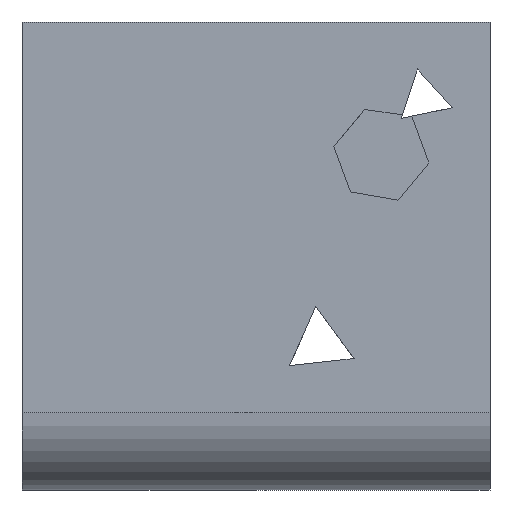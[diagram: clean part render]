
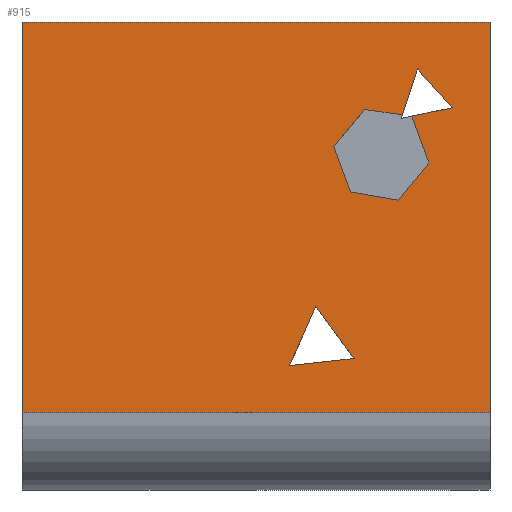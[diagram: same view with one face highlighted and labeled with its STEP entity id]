
A CAD part, left-side view. The second image highlights one B-rep face of the part: STEP entity #915.
In plain terms, the highlighted planar face has unit normal (-1, 0, 0).
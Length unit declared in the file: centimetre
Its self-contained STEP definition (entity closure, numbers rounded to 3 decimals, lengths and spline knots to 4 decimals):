
#18 = DIRECTION ( 'NONE',  ( 0., 0.99, 0.141 ) ) ;
#22 = LINE ( 'NONE', #679, #1436 ) ;
#28 = EDGE_CURVE ( 'NONE', #231, #514, #828, .T. ) ;
#37 = VECTOR ( 'NONE', #367, 100. ) ;
#39 = VECTOR ( 'NONE', #649, 100. ) ;
#40 = VECTOR ( 'NONE', #1107, 100. ) ;
#47 = CARTESIAN_POINT ( 'NONE',  ( 0., 298.3381, 637.0172 ) ) ;
#49 = CARTESIAN_POINT ( 'NONE',  ( 0., 155.1076, 899.6366 ) ) ;
#53 = CARTESIAN_POINT ( 'NONE',  ( 0., 130.7216, 698.7147 ) ) ;
#88 = CARTESIAN_POINT ( 'NONE',  ( 0., 0., 1000. ) ) ;
#89 = EDGE_LOOP ( 'NONE', ( #1752, #161, #659, #1715, #1196, #1542, #477, #116, #277 ) ) ;
#101 = CARTESIAN_POINT ( 'NONE',  ( 0., 187.2614, 801.5708 ) ) ;
#110 = CARTESIAN_POINT ( 'NONE',  ( 0., 298.3381, 637.0172 ) ) ;
#116 = ORIENTED_EDGE ( 'NONE', *, *, #703, .F. ) ;
#126 = VECTOR ( 'NONE', #1556, 100. ) ;
#135 = CARTESIAN_POINT ( 'NONE',  ( 0., 0., 1000. ) ) ;
#136 = EDGE_CURVE ( 'NONE', #249, #1490, #754, .T. ) ;
#139 = EDGE_LOOP ( 'NONE', ( #369, #674, #1492, #1570 ) ) ;
#148 = CARTESIAN_POINT ( 'NONE',  ( 0., 80.8885, 816.7632 ) ) ;
#151 = LINE ( 'NONE', #389, #1156 ) ;
#161 = ORIENTED_EDGE ( 'NONE', *, *, #1198, .F. ) ;
#164 = LINE ( 'NONE', #295, #40 ) ;
#177 = VECTOR ( 'NONE', #761, 100. ) ;
#180 = AXIS2_PLACEMENT_3D ( 'NONE', #438, #1124, #1565 ) ;
#186 = VECTOR ( 'NONE', #1399, 100. ) ;
#192 = LINE ( 'NONE', #299, #386 ) ;
#219 = VECTOR ( 'NONE', #906, 100. ) ;
#223 = EDGE_CURVE ( 'NONE', #339, #988, #1473, .T. ) ;
#231 = VERTEX_POINT ( 'NONE', #1334 ) ;
#247 = VERTEX_POINT ( 'NONE', #1056 ) ;
#249 = VERTEX_POINT ( 'NONE', #393 ) ;
#258 = FACE_BOUND ( 'NONE', #89, .T. ) ;
#277 = ORIENTED_EDGE ( 'NONE', *, *, #879, .F. ) ;
#287 = EDGE_CURVE ( 'NONE', #870, #698, #1444, .T. ) ;
#295 = CARTESIAN_POINT ( 'NONE',  ( 0., 1000., 1000. ) ) ;
#299 = CARTESIAN_POINT ( 'NONE',  ( 0., 1000., 1000. ) ) ;
#339 = VERTEX_POINT ( 'NONE', #1725 ) ;
#354 = CARTESIAN_POINT ( 'NONE',  ( 0., 189.7686, 793.9242 ) ) ;
#367 = DIRECTION ( 'NONE',  ( 0., -0.403, 0.915 ) ) ;
#369 = ORIENTED_EDGE ( 'NONE', *, *, #375, .T. ) ;
#375 = EDGE_CURVE ( 'NONE', #1024, #247, #164, .T. ) ;
#386 = VECTOR ( 'NONE', #1677, 100. ) ;
#389 = CARTESIAN_POINT ( 'NONE',  ( 0., 428.3982, 265.8048 ) ) ;
#391 = CARTESIAN_POINT ( 'NONE',  ( 0., 333.9591, 733.7906 ) ) ;
#393 = CARTESIAN_POINT ( 'NONE',  ( 0., 196.7193, 619.4792 ) ) ;
#411 = EDGE_CURVE ( 'NONE', #514, #1561, #22, .T. ) ;
#415 = CARTESIAN_POINT ( 'NONE',  ( 0., 167.0158, 798.6969 ) ) ;
#438 = CARTESIAN_POINT ( 'NONE',  ( 0., 1000., 1000. ) ) ;
#462 = ORIENTED_EDGE ( 'NONE', *, *, #223, .T. ) ;
#477 = ORIENTED_EDGE ( 'NONE', *, *, #136, .F. ) ;
#479 = CARTESIAN_POINT ( 'NONE',  ( 0., 130.7216, 698.7147 ) ) ;
#482 = CARTESIAN_POINT ( 'NONE',  ( 0., 290.4496, 280.8728 ) ) ;
#489 = VERTEX_POINT ( 'NONE', #693 ) ;
#514 = VERTEX_POINT ( 'NONE', #49 ) ;
#525 = CARTESIAN_POINT ( 'NONE',  ( 0., 0., 165.531 ) ) ;
#542 = LINE ( 'NONE', #415, #1017 ) ;
#636 = CARTESIAN_POINT ( 'NONE',  ( 0., 167.0158, 798.6969 ) ) ;
#649 = DIRECTION ( 'NONE',  ( 0., -1., 0. ) ) ;
#659 = ORIENTED_EDGE ( 'NONE', *, *, #411, .F. ) ;
#666 = DIRECTION ( 'NONE',  ( 0., -0.591, -0.807 ) ) ;
#674 = ORIENTED_EDGE ( 'NONE', *, *, #677, .T. ) ;
#677 = EDGE_CURVE ( 'NONE', #247, #698, #1595, .T. ) ;
#679 = CARTESIAN_POINT ( 'NONE',  ( 0., 155.1076, 899.6366 ) ) ;
#693 = CARTESIAN_POINT ( 'NONE',  ( 0., 290.4496, 280.8728 ) ) ;
#696 = EDGE_CURVE ( 'NONE', #988, #489, #1724, .T. ) ;
#698 = VERTEX_POINT ( 'NONE', #525 ) ;
#703 = EDGE_CURVE ( 'NONE', #1418, #249, #1457, .T. ) ;
#735 = PLANE ( 'NONE',  #180 ) ;
#747 = DIRECTION ( 'NONE',  ( 0., -0.64, 0.768 ) ) ;
#752 = LINE ( 'NONE', #354, #219 ) ;
#754 = LINE ( 'NONE', #1675, #1403 ) ;
#761 = DIRECTION ( 'NONE',  ( 0., 0., -1. ) ) ;
#782 = VERTEX_POINT ( 'NONE', #1202 ) ;
#828 = LINE ( 'NONE', #148, #1434 ) ;
#870 = VERTEX_POINT ( 'NONE', #135 ) ;
#879 = EDGE_CURVE ( 'NONE', #782, #1418, #1637, .T. ) ;
#899 = CARTESIAN_POINT ( 'NONE',  ( 0., 1000., 165.531 ) ) ;
#906 = DIRECTION ( 'NONE',  ( 0., -0.979, 0.205 ) ) ;
#911 = CARTESIAN_POINT ( 'NONE',  ( 0., 372.4731, 392.8059 ) ) ;
#915 = ADVANCED_FACE ( 'NONE', ( #1481, #258, #1420 ), #735, .F. ) ;
#956 = EDGE_CURVE ( 'NONE', #1676, #782, #1541, .T. ) ;
#961 = CARTESIAN_POINT ( 'NONE',  ( 0., 267.9614, 813.026 ) ) ;
#988 = VERTEX_POINT ( 'NONE', #1018 ) ;
#1017 = VECTOR ( 'NONE', #18, 100. ) ;
#1018 = CARTESIAN_POINT ( 'NONE',  ( 0., 372.4731, 392.8059 ) ) ;
#1024 = VERTEX_POINT ( 'NONE', #1300 ) ;
#1028 = DIRECTION ( 'NONE',  ( 0., -0.985, -0.17 ) ) ;
#1032 = VERTEX_POINT ( 'NONE', #636 ) ;
#1056 = CARTESIAN_POINT ( 'NONE',  ( 0., 1000., 165.531 ) ) ;
#1079 = EDGE_CURVE ( 'NONE', #1032, #231, #752, .T. ) ;
#1107 = DIRECTION ( 'NONE',  ( 0., 0., -1. ) ) ;
#1124 = DIRECTION ( 'NONE',  ( 1., 0., 0. ) ) ;
#1145 = LINE ( 'NONE', #53, #186 ) ;
#1156 = VECTOR ( 'NONE', #1740, 100. ) ;
#1170 = ORIENTED_EDGE ( 'NONE', *, *, #696, .T. ) ;
#1196 = ORIENTED_EDGE ( 'NONE', *, *, #1079, .F. ) ;
#1198 = EDGE_CURVE ( 'NONE', #1561, #1676, #542, .T. ) ;
#1202 = CARTESIAN_POINT ( 'NONE',  ( 0., 333.9591, 733.7906 ) ) ;
#1228 = ORIENTED_EDGE ( 'NONE', *, *, #1280, .T. ) ;
#1247 = CARTESIAN_POINT ( 'NONE',  ( 0., 267.9614, 813.026 ) ) ;
#1257 = VECTOR ( 'NONE', #1028, 100. ) ;
#1280 = EDGE_CURVE ( 'NONE', #489, #339, #151, .T. ) ;
#1300 = CARTESIAN_POINT ( 'NONE',  ( 0., 1000., 1000. ) ) ;
#1306 = EDGE_CURVE ( 'NONE', #1024, #870, #192, .T. ) ;
#1334 = CARTESIAN_POINT ( 'NONE',  ( 0., 80.8885, 816.7632 ) ) ;
#1340 = EDGE_CURVE ( 'NONE', #1490, #1032, #1145, .T. ) ;
#1399 = DIRECTION ( 'NONE',  ( 0., 0.341, 0.94 ) ) ;
#1403 = VECTOR ( 'NONE', #747, 100. ) ;
#1418 = VERTEX_POINT ( 'NONE', #47 ) ;
#1420 = FACE_OUTER_BOUND ( 'NONE', #139, .T. ) ;
#1434 = VECTOR ( 'NONE', #1655, 100. ) ;
#1436 = VECTOR ( 'NONE', #1653, 100. ) ;
#1444 = LINE ( 'NONE', #88, #177 ) ;
#1457 = LINE ( 'NONE', #110, #1257 ) ;
#1471 = EDGE_LOOP ( 'NONE', ( #1228, #462, #1170 ) ) ;
#1473 = LINE ( 'NONE', #911, #37 ) ;
#1481 = FACE_BOUND ( 'NONE', #1471, .T. ) ;
#1490 = VERTEX_POINT ( 'NONE', #479 ) ;
#1492 = ORIENTED_EDGE ( 'NONE', *, *, #287, .F. ) ;
#1498 = DIRECTION ( 'NONE',  ( 0., -0.345, -0.938 ) ) ;
#1525 = VECTOR ( 'NONE', #1498, 100. ) ;
#1541 = LINE ( 'NONE', #1247, #126 ) ;
#1542 = ORIENTED_EDGE ( 'NONE', *, *, #1340, .F. ) ;
#1552 = VECTOR ( 'NONE', #666, 100. ) ;
#1556 = DIRECTION ( 'NONE',  ( 0., 0.64, -0.768 ) ) ;
#1561 = VERTEX_POINT ( 'NONE', #101 ) ;
#1565 = DIRECTION ( 'NONE',  ( 0., 0., -1. ) ) ;
#1570 = ORIENTED_EDGE ( 'NONE', *, *, #1306, .F. ) ;
#1595 = LINE ( 'NONE', #899, #39 ) ;
#1637 = LINE ( 'NONE', #391, #1525 ) ;
#1653 = DIRECTION ( 'NONE',  ( 0., 0.312, -0.95 ) ) ;
#1655 = DIRECTION ( 'NONE',  ( 0., 0.667, 0.745 ) ) ;
#1675 = CARTESIAN_POINT ( 'NONE',  ( 0., 196.7193, 619.4792 ) ) ;
#1676 = VERTEX_POINT ( 'NONE', #961 ) ;
#1677 = DIRECTION ( 'NONE',  ( 0., -1., 0. ) ) ;
#1715 = ORIENTED_EDGE ( 'NONE', *, *, #28, .F. ) ;
#1724 = LINE ( 'NONE', #482, #1552 ) ;
#1725 = CARTESIAN_POINT ( 'NONE',  ( 0., 428.3982, 265.8048 ) ) ;
#1740 = DIRECTION ( 'NONE',  ( 0., 0.994, -0.109 ) ) ;
#1752 = ORIENTED_EDGE ( 'NONE', *, *, #956, .F. ) ;
